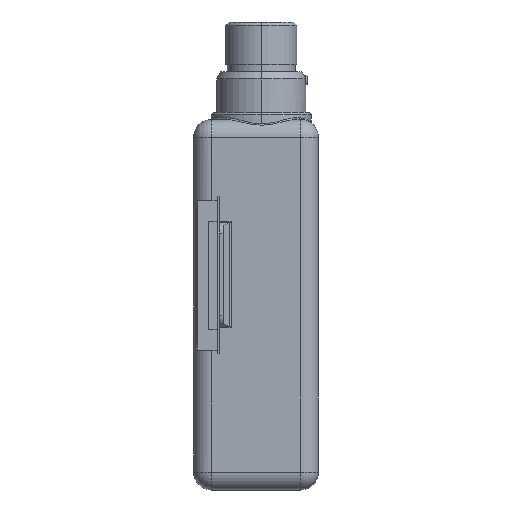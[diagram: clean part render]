
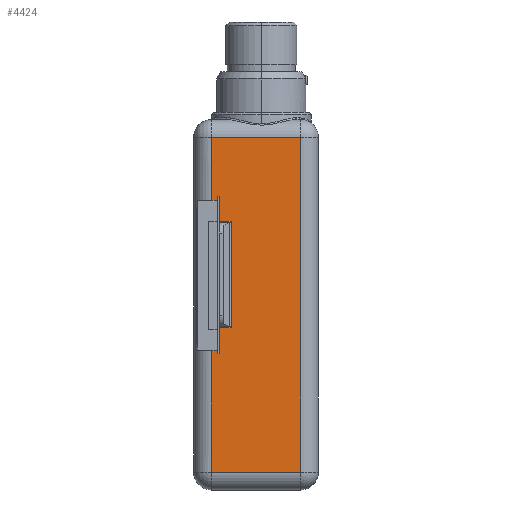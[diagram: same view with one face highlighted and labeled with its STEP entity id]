
A CAD part, left-side view. The second image highlights one B-rep face of the part: STEP entity #4424.
In plain terms, the highlighted planar face has unit normal (-1, 0, 0).
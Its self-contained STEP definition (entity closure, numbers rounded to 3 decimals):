
#21 = ORIENTED_EDGE ( 'NONE', *, *, #4075, .T. ) ;
#65 = CARTESIAN_POINT ( 'NONE',  ( -7.75, 5.9, -35.922 ) ) ;
#143 = VECTOR ( 'NONE', #1087, 1000. ) ;
#260 = LINE ( 'NONE', #5516, #3995 ) ;
#299 = LINE ( 'NONE', #3865, #143 ) ;
#329 = VERTEX_POINT ( 'NONE', #5075 ) ;
#422 = DIRECTION ( 'NONE',  ( 0., 1., 0. ) ) ;
#427 = LINE ( 'NONE', #4242, #6528 ) ;
#472 = EDGE_CURVE ( 'NONE', #5583, #1859, #9374, .T. ) ;
#561 = VECTOR ( 'NONE', #8480, 1000. ) ;
#573 = ORIENTED_EDGE ( 'NONE', *, *, #4911, .T. ) ;
#580 = CARTESIAN_POINT ( 'NONE',  ( -7.75, 7., -35.922 ) ) ;
#667 = ORIENTED_EDGE ( 'NONE', *, *, #7329, .F. ) ;
#682 = VERTEX_POINT ( 'NONE', #8526 ) ;
#765 = LINE ( 'NONE', #3692, #9028 ) ;
#800 = EDGE_CURVE ( 'NONE', #4757, #3484, #1290, .T. ) ;
#834 = EDGE_CURVE ( 'NONE', #3484, #8737, #7906, .T. ) ;
#853 = LINE ( 'NONE', #6689, #7458 ) ;
#895 = CARTESIAN_POINT ( 'NONE',  ( -7.75, 4.246, -35.69 ) ) ;
#944 = DIRECTION ( 'NONE',  ( 0., 0., -1. ) ) ;
#1087 = DIRECTION ( 'NONE',  ( 0., 1., 0. ) ) ;
#1098 = ORIENTED_EDGE ( 'NONE', *, *, #472, .F. ) ;
#1111 = ORIENTED_EDGE ( 'NONE', *, *, #9321, .T. ) ;
#1150 = VECTOR ( 'NONE', #4177, 1000. ) ;
#1162 = CARTESIAN_POINT ( 'NONE',  ( -7.75, 6.1, -35.922 ) ) ;
#1210 = VECTOR ( 'NONE', #3740, 1000. ) ;
#1290 = LINE ( 'NONE', #7806, #1150 ) ;
#1330 = CARTESIAN_POINT ( 'NONE',  ( -7.75, 7., -58.69 ) ) ;
#1440 = VERTEX_POINT ( 'NONE', #7270 ) ;
#1676 = AXIS2_PLACEMENT_3D ( 'NONE', #4482, #3727, #6635 ) ;
#1852 = EDGE_CURVE ( 'NONE', #1440, #8389, #765, .T. ) ;
#1859 = VERTEX_POINT ( 'NONE', #6600 ) ;
#1959 = VECTOR ( 'NONE', #9201, 1000. ) ;
#2088 = ORIENTED_EDGE ( 'NONE', *, *, #3186, .T. ) ;
#2186 = ORIENTED_EDGE ( 'NONE', *, *, #8280, .T. ) ;
#2350 = VECTOR ( 'NONE', #3282, 1000. ) ;
#2391 = CARTESIAN_POINT ( 'NONE',  ( -7.75, 5.9, -36.54 ) ) ;
#2469 = ORIENTED_EDGE ( 'NONE', *, *, #834, .T. ) ;
#2864 = FACE_OUTER_BOUND ( 'NONE', #6276, .T. ) ;
#2903 = VECTOR ( 'NONE', #8367, 1000. ) ;
#3145 = VERTEX_POINT ( 'NONE', #580 ) ;
#3186 = EDGE_CURVE ( 'NONE', #7656, #682, #8426, .T. ) ;
#3227 = LINE ( 'NONE', #6194, #1959 ) ;
#3282 = DIRECTION ( 'NONE',  ( 0., 0., -1. ) ) ;
#3484 = VERTEX_POINT ( 'NONE', #6930 ) ;
#3692 = CARTESIAN_POINT ( 'NONE',  ( -7.75, -8., -35.922 ) ) ;
#3727 = DIRECTION ( 'NONE',  ( 1., 0., 0. ) ) ;
#3740 = DIRECTION ( 'NONE',  ( 0., 1., 0. ) ) ;
#3782 = LINE ( 'NONE', #4589, #5506 ) ;
#3821 = DIRECTION ( 'NONE',  ( 0., 0., -1. ) ) ;
#3865 = CARTESIAN_POINT ( 'NONE',  ( -7.75, 5.9, -36.54 ) ) ;
#3995 = VECTOR ( 'NONE', #6067, 1000. ) ;
#4075 = EDGE_CURVE ( 'NONE', #8389, #5711, #4153, .T. ) ;
#4153 = LINE ( 'NONE', #5592, #8852 ) ;
#4177 = DIRECTION ( 'NONE',  ( 0., 0., -1. ) ) ;
#4229 = ORIENTED_EDGE ( 'NONE', *, *, #7334, .T. ) ;
#4233 = CARTESIAN_POINT ( 'NONE',  ( -7.75, 7., -56.19 ) ) ;
#4242 = CARTESIAN_POINT ( 'NONE',  ( -7.75, -8., -20.958 ) ) ;
#4424 = ADVANCED_FACE ( 'NONE', ( #2864 ), #4985, .F. ) ;
#4473 = CARTESIAN_POINT ( 'NONE',  ( -7.75, 5.9, -20.54 ) ) ;
#4482 = CARTESIAN_POINT ( 'NONE',  ( -7.75, -8., -58.69 ) ) ;
#4492 = CARTESIAN_POINT ( 'NONE',  ( -7.75, 5.9, -20.54 ) ) ;
#4534 = ORIENTED_EDGE ( 'NONE', *, *, #8583, .T. ) ;
#4589 = CARTESIAN_POINT ( 'NONE',  ( -7.75, -8., -56.19 ) ) ;
#4685 = LINE ( 'NONE', #895, #4887 ) ;
#4757 = VERTEX_POINT ( 'NONE', #4473 ) ;
#4887 = VECTOR ( 'NONE', #3821, 1000. ) ;
#4911 = EDGE_CURVE ( 'NONE', #682, #6336, #3227, .T. ) ;
#4985 = PLANE ( 'NONE',  #1676 ) ;
#5075 = CARTESIAN_POINT ( 'NONE',  ( -7.75, 7., -20.958 ) ) ;
#5126 = LINE ( 'NONE', #1330, #8849 ) ;
#5297 = VERTEX_POINT ( 'NONE', #5945 ) ;
#5440 = LINE ( 'NONE', #6965, #6223 ) ;
#5506 = VECTOR ( 'NONE', #7491, 1000. ) ;
#5516 = CARTESIAN_POINT ( 'NONE',  ( -7.75, 7., -58.69 ) ) ;
#5583 = VERTEX_POINT ( 'NONE', #1162 ) ;
#5591 = DIRECTION ( 'NONE',  ( 0., -1., 0. ) ) ;
#5592 = CARTESIAN_POINT ( 'NONE',  ( -7.75, 5.9, -36.54 ) ) ;
#5700 = ORIENTED_EDGE ( 'NONE', *, *, #7208, .T. ) ;
#5711 = VERTEX_POINT ( 'NONE', #2391 ) ;
#5945 = CARTESIAN_POINT ( 'NONE',  ( -7.75, 6.1, -20.54 ) ) ;
#5999 = ORIENTED_EDGE ( 'NONE', *, *, #6408, .T. ) ;
#6067 = DIRECTION ( 'NONE',  ( 0., 0., -1. ) ) ;
#6194 = CARTESIAN_POINT ( 'NONE',  ( -7.75, -8., -9.19 ) ) ;
#6223 = VECTOR ( 'NONE', #422, 1000. ) ;
#6276 = EDGE_LOOP ( 'NONE', ( #667, #8294, #2469, #8658, #8471, #21, #5999, #1098, #4534, #2186, #4229, #2088, #573, #5700, #1111, #9237 ) ) ;
#6336 = VERTEX_POINT ( 'NONE', #7249 ) ;
#6400 = EDGE_CURVE ( 'NONE', #8737, #1440, #4685, .T. ) ;
#6408 = EDGE_CURVE ( 'NONE', #5711, #1859, #299, .T. ) ;
#6435 = CARTESIAN_POINT ( 'NONE',  ( -7.75, 6.1, -36.54 ) ) ;
#6471 = CARTESIAN_POINT ( 'NONE',  ( -7.75, -8., -20.958 ) ) ;
#6507 = DIRECTION ( 'NONE',  ( 0., 0., -1. ) ) ;
#6528 = VECTOR ( 'NONE', #5591, 1000. ) ;
#6600 = CARTESIAN_POINT ( 'NONE',  ( -7.75, 6.1, -36.54 ) ) ;
#6635 = DIRECTION ( 'NONE',  ( 0., 0., -1. ) ) ;
#6689 = CARTESIAN_POINT ( 'NONE',  ( -7.75, 6.1, -36.54 ) ) ;
#6930 = CARTESIAN_POINT ( 'NONE',  ( -7.75, 5.9, -20.958 ) ) ;
#6944 = CARTESIAN_POINT ( 'NONE',  ( -7.75, -5.5, -58.69 ) ) ;
#6965 = CARTESIAN_POINT ( 'NONE',  ( -7.75, -8., -35.922 ) ) ;
#7059 = DIRECTION ( 'NONE',  ( 0., 0., -1. ) ) ;
#7091 = CARTESIAN_POINT ( 'NONE',  ( -7.75, 4.246, -20.958 ) ) ;
#7208 = EDGE_CURVE ( 'NONE', #6336, #329, #5126, .T. ) ;
#7249 = CARTESIAN_POINT ( 'NONE',  ( -7.75, 7., -9.19 ) ) ;
#7270 = CARTESIAN_POINT ( 'NONE',  ( -7.75, 4.246, -35.922 ) ) ;
#7329 = EDGE_CURVE ( 'NONE', #4757, #5297, #8124, .T. ) ;
#7334 = EDGE_CURVE ( 'NONE', #8711, #7656, #3782, .T. ) ;
#7376 = EDGE_CURVE ( 'NONE', #5297, #8271, #853, .T. ) ;
#7458 = VECTOR ( 'NONE', #944, 1000. ) ;
#7491 = DIRECTION ( 'NONE',  ( 0., -1., 0. ) ) ;
#7591 = CARTESIAN_POINT ( 'NONE',  ( -7.75, -5.5, -56.19 ) ) ;
#7656 = VERTEX_POINT ( 'NONE', #7591 ) ;
#7806 = CARTESIAN_POINT ( 'NONE',  ( -7.75, 5.9, -36.54 ) ) ;
#7906 = LINE ( 'NONE', #6471, #561 ) ;
#8124 = LINE ( 'NONE', #4492, #1210 ) ;
#8271 = VERTEX_POINT ( 'NONE', #8970 ) ;
#8280 = EDGE_CURVE ( 'NONE', #3145, #8711, #260, .T. ) ;
#8294 = ORIENTED_EDGE ( 'NONE', *, *, #800, .T. ) ;
#8367 = DIRECTION ( 'NONE',  ( 0., 0., 1. ) ) ;
#8389 = VERTEX_POINT ( 'NONE', #65 ) ;
#8426 = LINE ( 'NONE', #6944, #2903 ) ;
#8471 = ORIENTED_EDGE ( 'NONE', *, *, #1852, .T. ) ;
#8480 = DIRECTION ( 'NONE',  ( 0., -1., 0. ) ) ;
#8526 = CARTESIAN_POINT ( 'NONE',  ( -7.75, -5.5, -9.19 ) ) ;
#8583 = EDGE_CURVE ( 'NONE', #5583, #3145, #5440, .T. ) ;
#8658 = ORIENTED_EDGE ( 'NONE', *, *, #6400, .T. ) ;
#8711 = VERTEX_POINT ( 'NONE', #4233 ) ;
#8737 = VERTEX_POINT ( 'NONE', #7091 ) ;
#8791 = DIRECTION ( 'NONE',  ( 0., 1., 0. ) ) ;
#8849 = VECTOR ( 'NONE', #6507, 1000. ) ;
#8852 = VECTOR ( 'NONE', #7059, 1000. ) ;
#8970 = CARTESIAN_POINT ( 'NONE',  ( -7.75, 6.1, -20.958 ) ) ;
#9028 = VECTOR ( 'NONE', #8791, 1000. ) ;
#9201 = DIRECTION ( 'NONE',  ( 0., 1., 0. ) ) ;
#9237 = ORIENTED_EDGE ( 'NONE', *, *, #7376, .F. ) ;
#9321 = EDGE_CURVE ( 'NONE', #329, #8271, #427, .T. ) ;
#9374 = LINE ( 'NONE', #6435, #2350 ) ;
